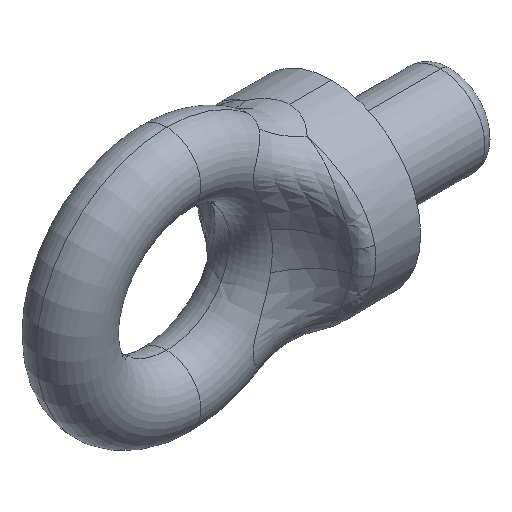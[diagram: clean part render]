
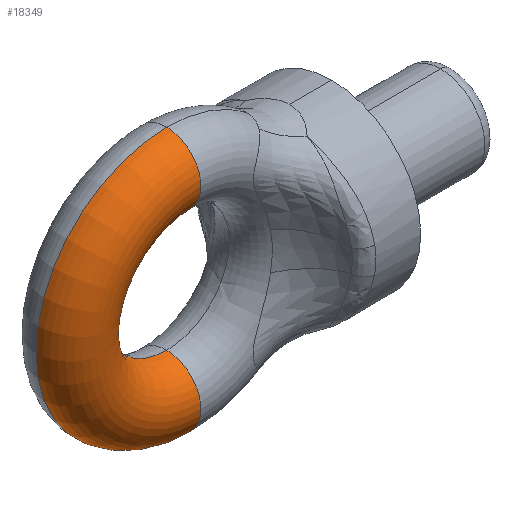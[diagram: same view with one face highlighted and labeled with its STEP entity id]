
A CAD part, isometric view. The second image highlights one B-rep face of the part: STEP entity #18349.
In plain terms, the highlighted toroidal (fillet/blend) face has major radius 38.25 mm and minor radius 13.5 mm.
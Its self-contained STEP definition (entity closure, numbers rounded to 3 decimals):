
#13275 = CARTESIAN_POINT ( 'NONE',  ( 0., 0., -24.75 ) ) ;
#13446 = CIRCLE ( 'NONE', #13502, 51.75 ) ;
#13499 = CARTESIAN_POINT ( 'NONE',  ( 0., 0., 51.75 ) ) ;
#13500 = DIRECTION ( 'NONE',  ( 0., 0., 1. ) ) ;
#13501 = DIRECTION ( 'NONE',  ( 0., 1., 0. ) ) ;
#13502 = AXIS2_PLACEMENT_3D ( 'NONE', #13507, #13501, #13500 ) ;
#13507 = CARTESIAN_POINT ( 'NONE',  ( 0., 0., 0. ) ) ;
#14000 = DIRECTION ( 'NONE',  ( 0., 0., 1. ) ) ;
#14001 = DIRECTION ( 'NONE',  ( 0., 1., 0. ) ) ;
#14002 = CARTESIAN_POINT ( 'NONE',  ( 0., 0., 0. ) ) ;
#14003 = AXIS2_PLACEMENT_3D ( 'NONE', #14002, #14001, #14000 ) ;
#14004 = CIRCLE ( 'NONE', #14003, 24.75 ) ;
#14005 = CARTESIAN_POINT ( 'NONE',  ( 0., 0., 24.75 ) ) ;
#14126 = CARTESIAN_POINT ( 'NONE',  ( 0., 0., -51.75 ) ) ;
#17681 = DIRECTION ( 'NONE',  ( 0., 0., -1. ) ) ;
#17682 = DIRECTION ( 'NONE',  ( 1., 0., 0. ) ) ;
#17683 = CARTESIAN_POINT ( 'NONE',  ( 0., 0., -38.25 ) ) ;
#17684 = AXIS2_PLACEMENT_3D ( 'NONE', #17683, #17682, #17681 ) ;
#17685 = CIRCLE ( 'NONE', #17684, 13.5 ) ;
#17796 = VERTEX_POINT ( 'NONE', #13275 ) ;
#17869 = EDGE_CURVE ( 'NONE', #18075, #17870, #13446, .T. ) ;
#17870 = VERTEX_POINT ( 'NONE', #13499 ) ;
#18051 = VERTEX_POINT ( 'NONE', #14005 ) ;
#18053 = EDGE_CURVE ( 'NONE', #17796, #18051, #14004, .T. ) ;
#18075 = VERTEX_POINT ( 'NONE', #14126 ) ;
#18198 = EDGE_CURVE ( 'NONE', #17796, #18075, #17685, .T. ) ;
#18222 = EDGE_LOOP ( 'NONE', ( #18350, #18351, #18352, #18353 ) ) ;
#18349 = ADVANCED_FACE ( 'NONE', ( #24278 ), #24343, .T. ) ;
#18350 = ORIENTED_EDGE ( 'NONE', *, *, #17869, .F. ) ;
#18351 = ORIENTED_EDGE ( 'NONE', *, *, #18198, .F. ) ;
#18352 = ORIENTED_EDGE ( 'NONE', *, *, #18053, .T. ) ;
#18353 = ORIENTED_EDGE ( 'NONE', *, *, #18629, .T. ) ;
#18629 = EDGE_CURVE ( 'NONE', #18051, #17870, #32530, .T. ) ;
#24278 = FACE_OUTER_BOUND ( 'NONE', #18222, .T. ) ;
#24328 = DIRECTION ( 'NONE',  ( 0., 0., 1. ) ) ;
#24329 = DIRECTION ( 'NONE',  ( 0., 1., 0. ) ) ;
#24330 = CARTESIAN_POINT ( 'NONE',  ( 0., 0., 0. ) ) ;
#24343 = TOROIDAL_SURFACE ( 'NONE', #24345, 38.25, 13.5 ) ;
#24345 = AXIS2_PLACEMENT_3D ( 'NONE', #24330, #24329, #24328 ) ;
#32526 = DIRECTION ( 'NONE',  ( 0., 0., 1. ) ) ;
#32527 = DIRECTION ( 'NONE',  ( -1., 0., 0. ) ) ;
#32528 = CARTESIAN_POINT ( 'NONE',  ( 0., 0., 38.25 ) ) ;
#32529 = AXIS2_PLACEMENT_3D ( 'NONE', #32528, #32527, #32526 ) ;
#32530 = CIRCLE ( 'NONE', #32529, 13.5 ) ;
